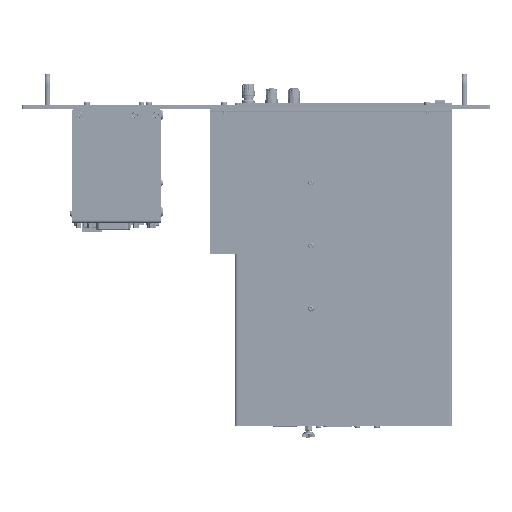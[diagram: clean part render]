
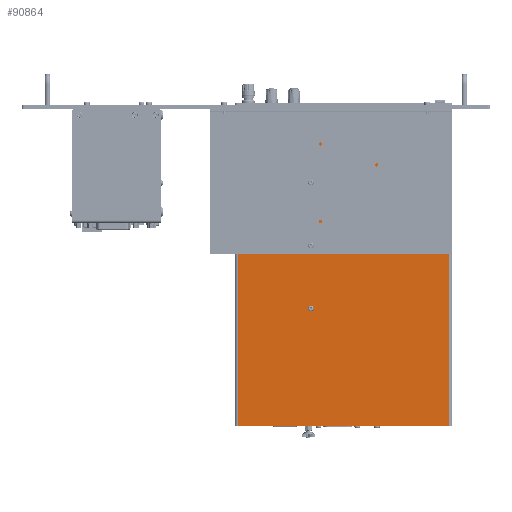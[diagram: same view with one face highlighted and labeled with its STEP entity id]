
A CAD part, front view. The second image highlights one B-rep face of the part: STEP entity #90864.
In plain terms, the highlighted planar face has unit normal (0, -1, 0).
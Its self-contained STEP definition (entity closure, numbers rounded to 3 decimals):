
#4011=LINE('',#135515,#10932);
#4026=LINE('',#135549,#10947);
#4042=LINE('',#135576,#10963);
#6807=LINE('',#159607,#13728);
#10932=VECTOR('',#107996,10.);
#10947=VECTOR('',#108019,10.);
#10963=VECTOR('',#108041,10.);
#13728=VECTOR('',#116768,10.);
#17276=FACE_BOUND('',#29687,.T.);
#17277=FACE_BOUND('',#29688,.T.);
#17278=FACE_BOUND('',#29689,.T.);
#19502=PLANE('',#98103);
#24123=FACE_OUTER_BOUND('',#29686,.T.);
#29686=EDGE_LOOP('',(#74946,#74947,#74948,#74949));
#29687=EDGE_LOOP('',(#74950,#74951));
#29688=EDGE_LOOP('',(#74952));
#29689=EDGE_LOOP('',(#74953,#74954));
#33900=CIRCLE('',#95238,3.);
#33918=CIRCLE('',#95278,2.8);
#33919=CIRCLE('',#95279,2.8);
#33924=CIRCLE('',#95285,2.8);
#33925=CIRCLE('',#95286,2.8);
#38704=VERTEX_POINT('',#135512);
#38705=VERTEX_POINT('',#135514);
#38719=VERTEX_POINT('',#135546);
#38720=VERTEX_POINT('',#135548);
#38859=VERTEX_POINT('',#135919);
#38893=VERTEX_POINT('',#136081);
#38894=VERTEX_POINT('',#136083);
#38897=VERTEX_POINT('',#136119);
#38898=VERTEX_POINT('',#136121);
#48107=EDGE_CURVE('',#38705,#38704,#4011,.T.);
#48124=EDGE_CURVE('',#38720,#38719,#4026,.T.);
#48141=EDGE_CURVE('',#38719,#38705,#4042,.T.);
#48318=EDGE_CURVE('',#38859,#38859,#33900,.T.);
#48374=EDGE_CURVE('',#38893,#38894,#33918,.T.);
#48375=EDGE_CURVE('',#38894,#38893,#33919,.T.);
#48380=EDGE_CURVE('',#38897,#38898,#33924,.T.);
#48381=EDGE_CURVE('',#38898,#38897,#33925,.T.);
#53206=EDGE_CURVE('',#38704,#38720,#6807,.T.);
#74946=ORIENTED_EDGE('',*,*,#53206,.T.);
#74947=ORIENTED_EDGE('',*,*,#48124,.T.);
#74948=ORIENTED_EDGE('',*,*,#48141,.T.);
#74949=ORIENTED_EDGE('',*,*,#48107,.T.);
#74950=ORIENTED_EDGE('',*,*,#48375,.F.);
#74951=ORIENTED_EDGE('',*,*,#48374,.F.);
#74952=ORIENTED_EDGE('',*,*,#48318,.T.);
#74953=ORIENTED_EDGE('',*,*,#48381,.F.);
#74954=ORIENTED_EDGE('',*,*,#48380,.F.);
#90864=ADVANCED_FACE('',(#24123,#17276,#17277,#17278),#19502,.F.);
#95238=AXIS2_PLACEMENT_3D('',#135920,#108369,#108370);
#95278=AXIS2_PLACEMENT_3D('',#136084,#108475,#108476);
#95279=AXIS2_PLACEMENT_3D('',#136085,#108477,#108478);
#95285=AXIS2_PLACEMENT_3D('',#136122,#108489,#108490);
#95286=AXIS2_PLACEMENT_3D('',#136123,#108491,#108492);
#98103=AXIS2_PLACEMENT_3D('',#159606,#116766,#116767);
#107996=DIRECTION('',(0.,0.,1.));
#108019=DIRECTION('',(0.,0.,-1.));
#108041=DIRECTION('',(1.,0.,0.));
#108369=DIRECTION('center_axis',(0.,1.,0.));
#108370=DIRECTION('ref_axis',(0.,0.,
-1.));
#108475=DIRECTION('center_axis',(0.,-1.,0.));
#108476=DIRECTION('ref_axis',(0.,0.,-1.));
#108477=DIRECTION('center_axis',(0.,-1.,0.));
#108478=DIRECTION('ref_axis',(0.,0.,-1.));
#108489=DIRECTION('center_axis',(0.,-1.,0.));
#108490=DIRECTION('ref_axis',(0.,0.,-1.));
#108491=DIRECTION('center_axis',(0.,-1.,0.));
#108492=DIRECTION('ref_axis',(0.,0.,-1.));
#116766=DIRECTION('center_axis',(0.,1.,0.));
#116767=DIRECTION('ref_axis',(0.,0.,
1.));
#116768=DIRECTION('',(-1.,0.,0.));
#135512=CARTESIAN_POINT('',(199.,-26.25,0.));
#135514=CARTESIAN_POINT('',(199.,-26.25,-327.75));
#135515=CARTESIAN_POINT('',(199.,-26.25,-244.5));
#135546=CARTESIAN_POINT('',(-19.,-26.25,-327.75));
#135548=CARTESIAN_POINT('',(-19.,-26.25,0.));
#135549=CARTESIAN_POINT('',(-19.,-26.25,-78.));
#135576=CARTESIAN_POINT('',(-22.,-26.25,-327.75));
#135919=CARTESIAN_POINT('',(56.5,-26.25,-203.25));
#135920=CARTESIAN_POINT('Origin',(56.5,-26.25,-206.25));
#136081=CARTESIAN_POINT('',(56.5,-26.25,-144.05));
#136083=CARTESIAN_POINT('',(56.5,-26.25,-138.45));
#136084=CARTESIAN_POINT('Origin',(56.5,-26.25,-141.25));
#136085=CARTESIAN_POINT('Origin',(56.5,-26.25,-141.25));
#136119=CARTESIAN_POINT('',(56.564,-26.25,-73.451));
#136121=CARTESIAN_POINT('',(56.436,-26.25,-79.049));
#136122=CARTESIAN_POINT('Origin',(56.5,-26.25,-76.25));
#136123=CARTESIAN_POINT('Origin',(56.5,-26.25,-76.25));
#159606=CARTESIAN_POINT('Origin',(90.,-26.25,-161.25));
#159607=CARTESIAN_POINT('',(45.,-26.25,0.));
